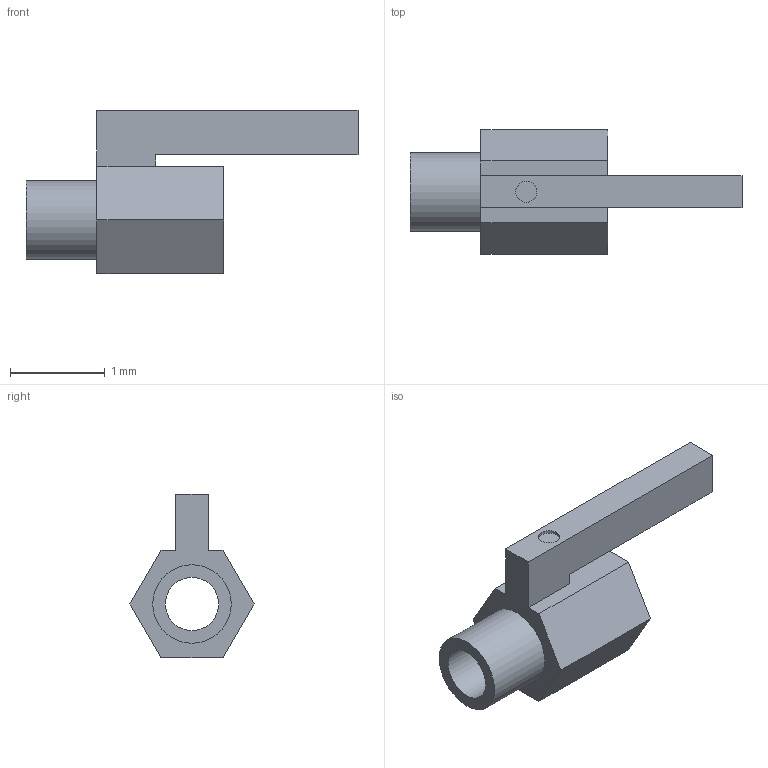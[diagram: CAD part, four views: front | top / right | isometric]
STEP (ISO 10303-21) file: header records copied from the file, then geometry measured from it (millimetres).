
FILE_DESCRIPTION(('Open CASCADE Model'),'2;1');
FILE_NAME('Open CASCADE Shape Model','2021-09-23T15:41:08',('Author'),( 'Open CASCADE'),'Open CASCADE STEP processor 7.3','Open CASCADE 7.3' ,'Unknown');
FILE_SCHEMA(('AUTOMOTIVE_DESIGN { 1 0 10303 214 1 1 1 1 }'));
Length unit declared in the file: millimetre
Products named in the file (1): Open CASCADE STEP translator 7.3 1
Bounding box: 3.51 x 1.31 x 1.73 mm (x, y, z)
Volume: 1.7 mm3; surface area: 17.9 mm2
Topology: 1 solids, 1 shells, 21 faces, 49 edges, 33 vertices
Faces by surface type: plane 17, cylinder 4
Full cylindrical faces by diameter (mm): 0.223 x1, 0.562 x1, 0.709 x1, 0.83 x1
Entity records: 1271 total; most frequent: CARTESIAN_POINT 254, DIRECTION 188, LINE 125, VECTOR 125, ORIENTED_EDGE 98, PCURVE 98, DEFINITIONAL_REPRESENTATION 98, EDGE_CURVE 49
